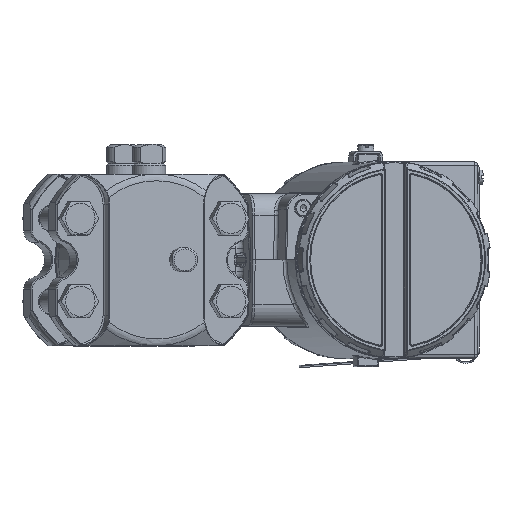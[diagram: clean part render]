
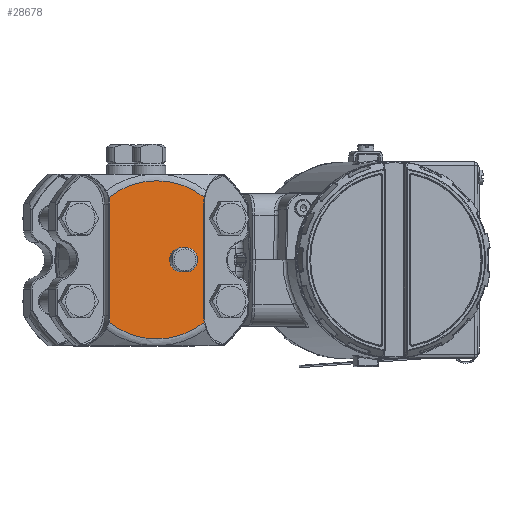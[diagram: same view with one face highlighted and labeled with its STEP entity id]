
A CAD part, top view. The second image highlights one B-rep face of the part: STEP entity #28678.
In plain terms, the highlighted planar face has unit normal (0.201, 0, 0.98) as drawn and (0, 0, 1) by its records, which use the part's own axes.
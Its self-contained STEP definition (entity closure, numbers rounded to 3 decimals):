
#535=FACE_BOUND('',#4463,.T.);
#1912=PLANE('',#31420);
#2506=FACE_OUTER_BOUND('',#4462,.T.);
#4462=EDGE_LOOP('',(#20398,#20399,#20400,#20401,#20402,#20403,#20404,#20405));
#4463=EDGE_LOOP('',(#20406,#20407));
#6224=LINE('',#46123,#7274);
#6234=LINE('',#46500,#7284);
#7274=VECTOR('',#35367,10.);
#7284=VECTOR('',#35463,10.);
#8491=CIRCLE('',#31120,13.3);
#8495=CIRCLE('',#31126,13.3);
#8522=CIRCLE('',#31163,13.3);
#8526=CIRCLE('',#31169,13.3);
#8635=CIRCLE('',#31361,5.);
#8636=CIRCLE('',#31362,5.);
#8668=CIRCLE('',#31418,33.424);
#8670=CIRCLE('',#31421,33.424);
#11898=VERTEX_POINT('',#46103);
#11900=VERTEX_POINT('',#46115);
#11902=VERTEX_POINT('',#46121);
#11904=VERTEX_POINT('',#46127);
#11938=VERTEX_POINT('',#46480);
#11940=VERTEX_POINT('',#46492);
#11942=VERTEX_POINT('',#46498);
#11944=VERTEX_POINT('',#46504);
#12083=VERTEX_POINT('',#47424);
#12084=VERTEX_POINT('',#47425);
#14769=EDGE_CURVE('',#11900,#11898,#8491,.T.);
#14772=EDGE_CURVE('',#11902,#11900,#6224,.T.);
#14775=EDGE_CURVE('',#11904,#11902,#8495,.T.);
#14829=EDGE_CURVE('',#11940,#11938,#8522,.T.);
#14832=EDGE_CURVE('',#11942,#11940,#6234,.T.);
#14835=EDGE_CURVE('',#11944,#11942,#8526,.T.);
#15066=EDGE_CURVE('',#12083,#12084,#8635,.T.);
#15067=EDGE_CURVE('',#12084,#12083,#8636,.T.);
#15109=EDGE_CURVE('',#11944,#11898,#8668,.T.);
#15111=EDGE_CURVE('',#11904,#11938,#8670,.T.);
#20398=ORIENTED_EDGE('',*,*,#14775,.F.);
#20399=ORIENTED_EDGE('',*,*,#15111,.T.);
#20400=ORIENTED_EDGE('',*,*,#14829,.F.);
#20401=ORIENTED_EDGE('',*,*,#14832,.F.);
#20402=ORIENTED_EDGE('',*,*,#14835,.F.);
#20403=ORIENTED_EDGE('',*,*,#15109,.T.);
#20404=ORIENTED_EDGE('',*,*,#14769,.F.);
#20405=ORIENTED_EDGE('',*,*,#14772,.F.);
#20406=ORIENTED_EDGE('',*,*,#15066,.T.);
#20407=ORIENTED_EDGE('',*,*,#15067,.T.);
#28678=ADVANCED_FACE('',(#2506,#535),#1912,.T.);
#31120=AXIS2_PLACEMENT_3D('',#46117,#35359,#35360);
#31126=AXIS2_PLACEMENT_3D('',#46129,#35373,#35374);
#31163=AXIS2_PLACEMENT_3D('',#46494,#35455,#35456);
#31169=AXIS2_PLACEMENT_3D('',#46506,#35469,#35470);
#31361=AXIS2_PLACEMENT_3D('',#47426,#35933,#35934);
#31362=AXIS2_PLACEMENT_3D('',#47427,#35935,#35936);
#31418=AXIS2_PLACEMENT_3D('',#47515,#36057,#36058);
#31420=AXIS2_PLACEMENT_3D('',#47517,#36061,#36062);
#31421=AXIS2_PLACEMENT_3D('',#47518,#36063,#36064);
#35359=DIRECTION('center_axis',(0.,0.,1.));
#35360=DIRECTION('ref_axis',(-0.104,0.995,0.));
#35367=DIRECTION('',(-1.,0.,0.));
#35373=DIRECTION('center_axis',(0.,0.,1.));
#35374=DIRECTION('ref_axis',(0.104,0.995,0.));
#35455=DIRECTION('center_axis',(0.,0.,1.));
#35456=DIRECTION('ref_axis',(0.104,-0.995,0.));
#35463=DIRECTION('',(1.,0.,0.));
#35469=DIRECTION('center_axis',(0.,0.,1.));
#35470=DIRECTION('ref_axis',(-0.104,-0.995,0.));
#35933=DIRECTION('center_axis',(0.,0.,-1.));
#35934=DIRECTION('ref_axis',(1.,0.,0.));
#35935=DIRECTION('center_axis',(0.,0.,-1.));
#35936=DIRECTION('ref_axis',(1.,0.,0.));
#36057=DIRECTION('center_axis',(0.,0.,1.));
#36058=DIRECTION('ref_axis',(1.,0.,0.));
#36061=DIRECTION('center_axis',(0.,0.,1.));
#36062=DIRECTION('ref_axis',(1.,0.,0.));
#36063=DIRECTION('center_axis',(0.,0.,1.));
#36064=DIRECTION('ref_axis',(1.,0.,0.));
#46103=CARTESIAN_POINT('',(-26.385,-20.517,31.5));
#46115=CARTESIAN_POINT('',(-23.5,-20.2,31.5));
#46117=CARTESIAN_POINT('Origin',(-23.5,-33.5,31.5));
#46121=CARTESIAN_POINT('',(23.5,-20.2,31.5));
#46123=CARTESIAN_POINT('',(-11.75,-20.2,31.5));
#46127=CARTESIAN_POINT('',(26.385,-20.517,31.5));
#46129=CARTESIAN_POINT('Origin',(23.5,-33.5,31.5));
#46480=CARTESIAN_POINT('',(26.385,20.517,31.5));
#46492=CARTESIAN_POINT('',(23.5,20.2,31.5));
#46494=CARTESIAN_POINT('Origin',(23.5,33.5,31.5));
#46498=CARTESIAN_POINT('',(-23.5,20.2,31.5));
#46500=CARTESIAN_POINT('',(11.75,20.2,31.5));
#46504=CARTESIAN_POINT('',(-26.385,20.517,31.5));
#46506=CARTESIAN_POINT('Origin',(-23.5,33.5,31.5));
#47424=CARTESIAN_POINT('',(5.,10.5,31.5));
#47425=CARTESIAN_POINT('',(-5.,10.5,31.5));
#47426=CARTESIAN_POINT('Origin',(0.,10.5,31.5));
#47427=CARTESIAN_POINT('Origin',(0.,10.5,31.5));
#47515=CARTESIAN_POINT('Origin',(0.,0.,31.5));
#47517=CARTESIAN_POINT('Origin',(0.,0.,
31.5));
#47518=CARTESIAN_POINT('Origin',(0.,0.,31.5));
